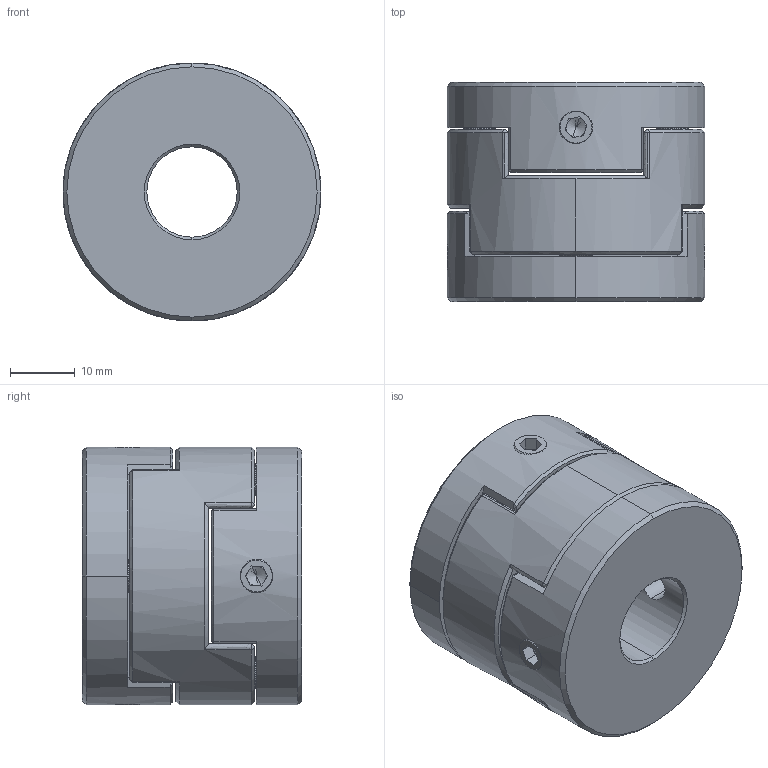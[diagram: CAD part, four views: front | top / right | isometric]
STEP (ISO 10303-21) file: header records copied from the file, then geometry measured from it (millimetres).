
FILE_DESCRIPTION (( 'STEP AP203' ), '1' );
FILE_NAME ('LZ-D-D40L35-14-20.STEP', '2021-10-30T05:22:28', ( '' ), ( '' ), 'SwSTEP 2.0', 'SolidWorks 2018', '' );
FILE_SCHEMA (( 'CONFIG_CONTROL_DESIGN' ));
Length unit declared in the file: millimetre
Products named in the file (1): LZ-D-D40L35-14-20
Bounding box: 40 x 34 x 40 mm (x, y, z)
Volume: 32957.4 mm3; surface area: 12278.3 mm2
Topology: 1 solids, 1 shells, 218 faces, 548 edges, 331 vertices
Faces by surface type: plane 89, bspline 55, cone 48, cylinder 26
Entity records: 7788 total; most frequent: CARTESIAN_POINT 3028, ORIENTED_EDGE 1080, DIRECTION 800, EDGE_CURVE 540, VERTEX_POINT 331, AXIS2_PLACEMENT_3D 290, EDGE_LOOP 243, VECTOR 220
